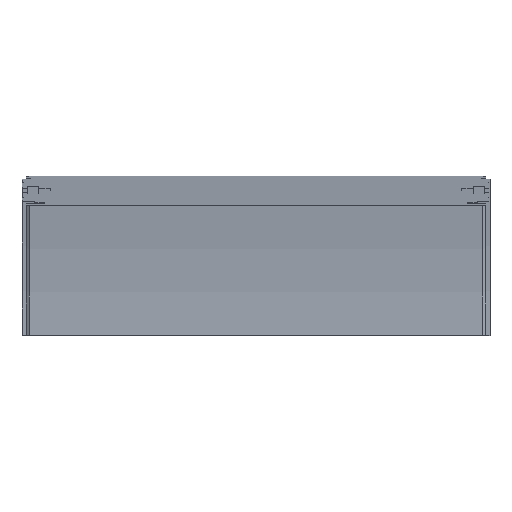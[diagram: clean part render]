
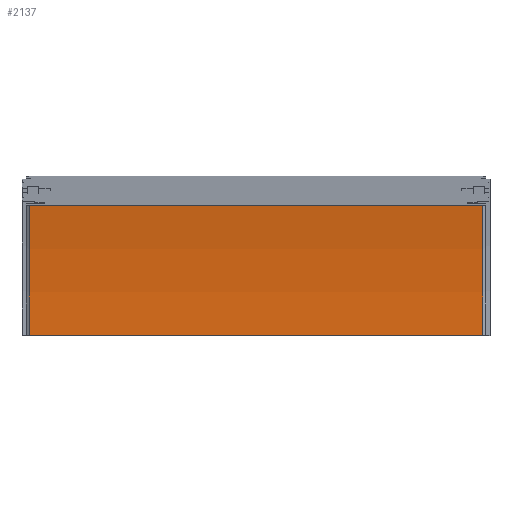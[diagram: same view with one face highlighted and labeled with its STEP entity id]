
A CAD part, top view. The second image highlights one B-rep face of the part: STEP entity #2137.
In plain terms, the highlighted cylindrical face has radius 358 mm (diameter 716 mm), a partial arc.
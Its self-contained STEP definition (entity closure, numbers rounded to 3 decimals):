
#62=CYLINDRICAL_SURFACE('',#2337,358.);
#225=CIRCLE('',#2336,358.);
#226=CIRCLE('',#2338,358.);
#336=FACE_OUTER_BOUND('',#454,.T.);
#454=EDGE_LOOP('',(#1769,#1770,#1771,#1772));
#615=LINE('',#8228,#793);
#616=LINE('',#8230,#794);
#793=VECTOR('',#2838,10.);
#794=VECTOR('',#2839,10.);
#1005=VERTEX_POINT('',#8221);
#1006=VERTEX_POINT('',#8223);
#1007=VERTEX_POINT('',#8227);
#1008=VERTEX_POINT('',#8229);
#1304=EDGE_CURVE('',#1005,#1006,#225,.T.);
#1305=EDGE_CURVE('',#1007,#1005,#615,.T.);
#1306=EDGE_CURVE('',#1008,#1006,#616,.T.);
#1307=EDGE_CURVE('',#1007,#1008,#226,.T.);
#1769=ORIENTED_EDGE('',*,*,#1305,.T.);
#1770=ORIENTED_EDGE('',*,*,#1304,.T.);
#1771=ORIENTED_EDGE('',*,*,#1306,.F.);
#1772=ORIENTED_EDGE('',*,*,#1307,.F.);
#2137=ADVANCED_FACE('',(#336),#62,.F.);
#2336=AXIS2_PLACEMENT_3D('',#8225,#2834,#2835);
#2337=AXIS2_PLACEMENT_3D('',#8226,#2836,#2837);
#2338=AXIS2_PLACEMENT_3D('',#8231,#2840,#2841);
#2834=DIRECTION('center_axis',(1.,0.,0.));
#2835=DIRECTION('ref_axis',(0.,0.,-1.));
#2836=DIRECTION('center_axis',(1.,0.,0.));
#2837=DIRECTION('ref_axis',(0.,0.,-1.));
#2838=DIRECTION('',(1.,0.,0.));
#2839=DIRECTION('',(1.,0.,0.));
#2840=DIRECTION('center_axis',(1.,0.,0.));
#2841=DIRECTION('ref_axis',(0.,0.,-1.));
#8221=CARTESIAN_POINT('',(108.5,0.,42.));
#8223=CARTESIAN_POINT('',(108.5,62.166,47.439));
#8225=CARTESIAN_POINT('Origin',(108.5,0.,400.));
#8226=CARTESIAN_POINT('Origin',(-54.25,0.,400.));
#8227=CARTESIAN_POINT('',(-108.5,0.,42.));
#8228=CARTESIAN_POINT('',(-108.5,0.,42.));
#8229=CARTESIAN_POINT('',(-108.5,62.166,47.439));
#8230=CARTESIAN_POINT('',(-108.5,62.166,47.439));
#8231=CARTESIAN_POINT('Origin',(-108.5,0.,400.));
